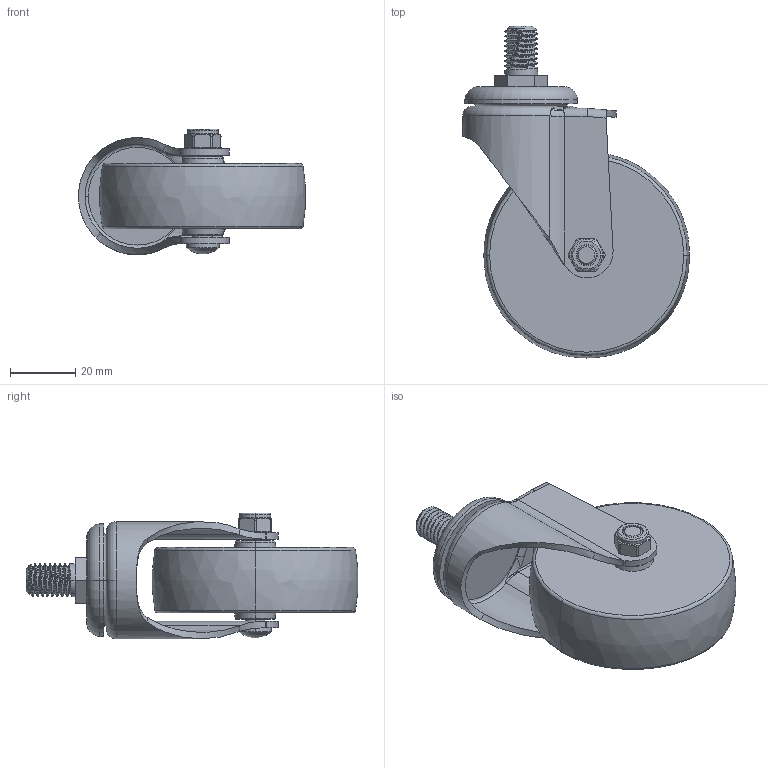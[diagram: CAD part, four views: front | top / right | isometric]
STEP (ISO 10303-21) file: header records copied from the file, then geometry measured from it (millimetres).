
FILE_DESCRIPTION((''),'2;1');
FILE_NAME('261125-2625-83_ASM','2019-12-13T',('L'),(''),'PRO/ENGINEER BY PARAMETRIC TECHNOLOGY CORPORATION, 2010280','PRO/ENGINEER BY PARAMETRIC TECHNOLOGY CORPORATION, 2010280','');
FILE_SCHEMA(('CONFIG_CONTROL_DESIGN'));
Length unit declared in the file: millimetre
Products named in the file (5): 261325; 2625-83; 2610-020; 2610-031; 261125-2625-83_ASM
Assembly tree (4 placements, depth 2):
  261125-2625-83_ASM
    261325
    2625-83
    2610-020
    2610-031
Bounding box: 69.34 x 101.4 x 38.43 mm (x, y, z)
Volume: 76655.5 mm3; surface area: 22996.1 mm2
Topology: 4 solids, 4 shells, 194 faces, 465 edges, 283 vertices
Faces by surface type: cylinder 62, plane 43, bspline 39, torus 28, cone 20, sphere 2
Entity records: 9189 total; most frequent: CARTESIAN_POINT 4841, ORIENTED_EDGE 918, DIRECTION 835, EDGE_CURVE 459, AXIS2_PLACEMENT_3D 344, VERTEX_POINT 283, EDGE_LOOP 212, FACE_OUTER_BOUND 194
